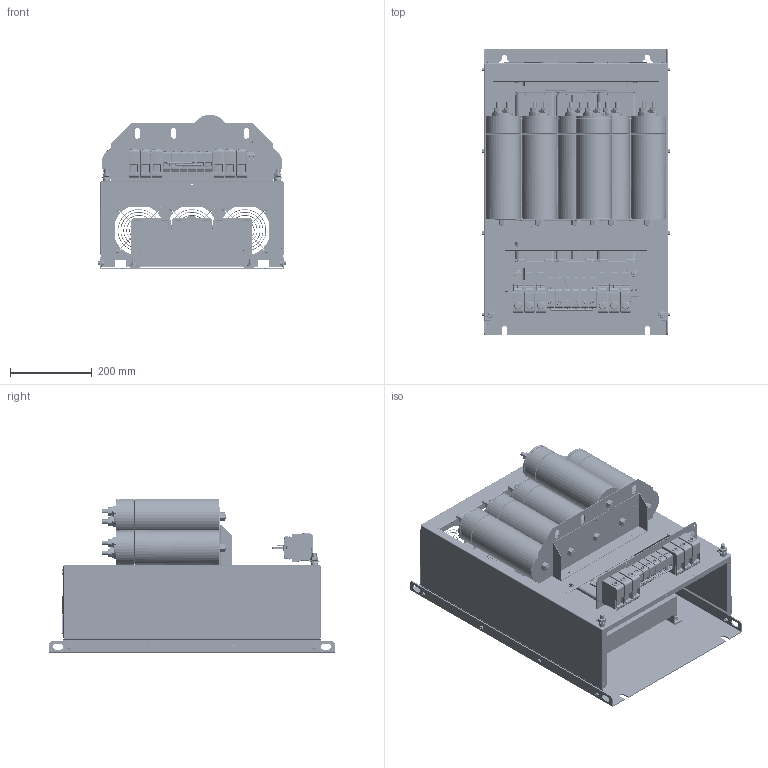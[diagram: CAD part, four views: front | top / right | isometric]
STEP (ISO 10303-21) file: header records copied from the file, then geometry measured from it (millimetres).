
FILE_DESCRIPTION(/* description */ (''),/* implementation_level */ '2;1');
FILE_NAME(/* name */ 'C:\Users\Erika.Jenzer\OneDrive - Schaffner EMV AG\Desktop\Plutus Customer STEP\CUSTOMER IP00 FS E 6CAPS.stp',/* time_stamp */ '2023-05-12T09:58:50+02:00',/* author */ ('erika.jenzer'),/* organization */ (''),/* preprocessor_version */ 'ST-DEVELOPER v18.1',/* originating_system */ 'Autodesk Inventor 2020',/* authorisation */ '');
FILE_SCHEMA (('AUTOMOTIVE_DESIGN { 1 0 10303 214 3 1 1 }'));
Products named in the file (1): CUSTOMER IP00 FS E 6CAPS
Bounding box: 459.59 x 700 x 378.42 mm (x, y, z)
Volume: 23605679.8 mm3; surface area: 3412800 mm2
Topology: 23 solids, 23 shells, 14329 faces, 35272 edges, 21120 vertices
Faces by surface type: plane 5463, cylinder 4726, bspline 2612, torus 668, cone 608, sphere 252
Full cylindrical faces by diameter (mm): 1 x14, 1.2 x1, 1.5 x1, 2 x6, 2.8 x6, 3.242 x8, 3.4 x6, 4 x51, 4.3 x10, 4.881 x6, 5.2 x6, 5.5 x22, 6 x16, 6.5 x10, 7 x8, 7.9 x10, 8 x10, 8.3 x6, 8.7 x4, 9 x10, 9.188 x2, 9.9 x3, 10 x22, 10.5 x2, 11 x14, 11.05 x4, 11.6 x6, 12 x8, 12.5 x1, 12.7 x3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
Entity records: 528753 total; most frequent: CARTESIAN_POINT 185239, ORIENTED_EDGE 69944, DIRECTION 68660, EDGE_CURVE 34972, AXIS2_PLACEMENT_3D 25360, VERTEX_POINT 21120, LINE 17940, VECTOR 17940
